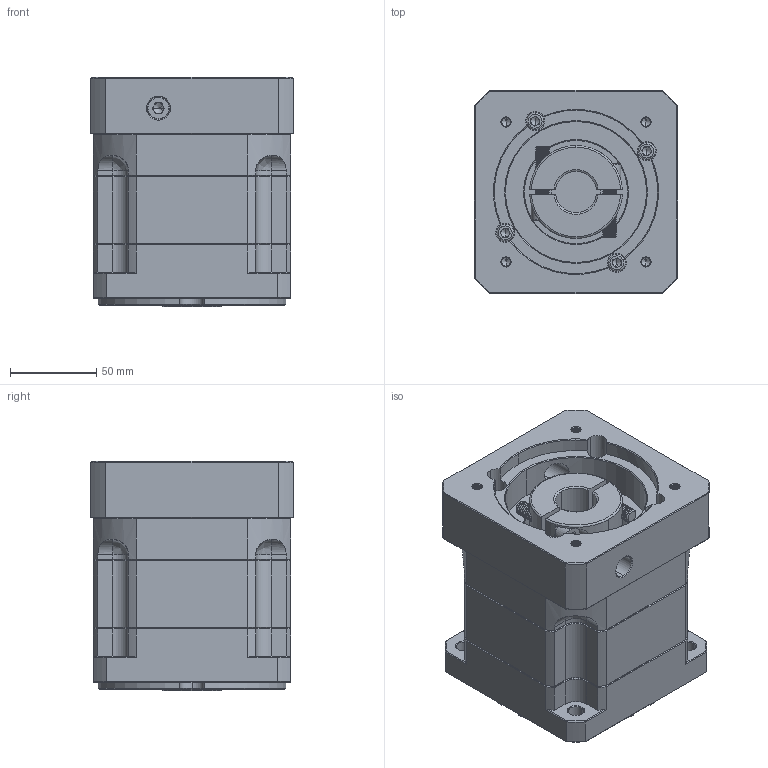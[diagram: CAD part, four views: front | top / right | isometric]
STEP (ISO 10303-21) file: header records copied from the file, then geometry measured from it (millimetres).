
FILE_DESCRIPTION (( 'STEP AP214' ), '1' );
FILE_NAME ('ZB115A-K25-L1-P2-24-95-115-M6.step', '2023-08-26T06:36:01', ( '' ), ( '' ), 'SwSTEP 2.0', 'SolidWorks 2016', '' );
FILE_SCHEMA (( 'AUTOMOTIVE_DESIGN' ));
Length unit declared in the file: millimetre
Products named in the file (1): ZB115A-K25-L1-P2-24-95-115-M6
Bounding box: 118 x 118 x 133.5 mm (x, y, z)
Volume: 1419758.7 mm3; surface area: 159186.7 mm2
Topology: 6 solids, 6 shells, 2343 faces, 6160 edges, 3913 vertices
Faces by surface type: plane 1137, bspline 414, cylinder 407, cone 365, torus 20
Entity records: 123427 total; most frequent: CARTESIAN_POINT 43161, ORIENTED_EDGE 12256, DIRECTION 9774, EDGE_CURVE 6128, LINE 3940, VECTOR 3940, VERTEX_POINT 3913, AXIS2_PLACEMENT_3D 2917
